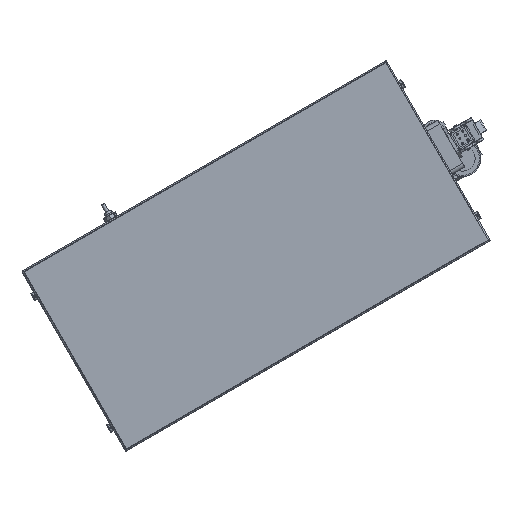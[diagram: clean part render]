
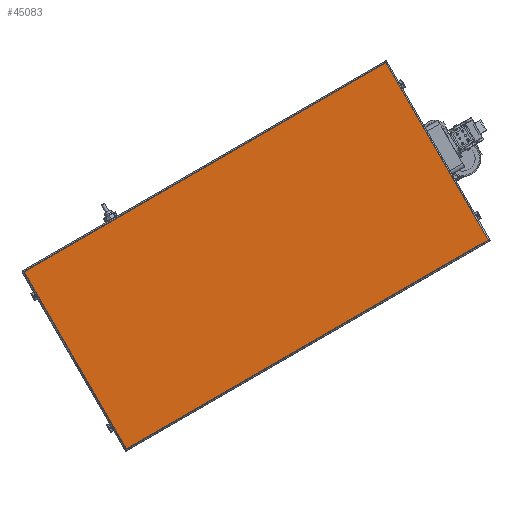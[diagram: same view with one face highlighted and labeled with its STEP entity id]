
A CAD part, top view. The second image highlights one B-rep face of the part: STEP entity #45083.
In plain terms, the highlighted planar face has unit normal (0, 0, 1).
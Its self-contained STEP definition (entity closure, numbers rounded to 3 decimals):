
#1679 = CARTESIAN_POINT ( 'NONE',  ( -165.631, 44.381, 966.5 ) ) ;
#2263 = VECTOR ( 'NONE', #46170, 1000. ) ;
#3627 = VERTEX_POINT ( 'NONE', #25699 ) ;
#4707 = FACE_OUTER_BOUND ( 'NONE', #20780, .T. ) ;
#7316 = EDGE_CURVE ( 'NONE', #3627, #53828, #54344, .T. ) ;
#8416 = EDGE_CURVE ( 'NONE', #47987, #3627, #47534, .T. ) ;
#8774 = VECTOR ( 'NONE', #25216, 1000. ) ;
#10395 = ORIENTED_EDGE ( 'NONE', *, *, #49332, .T. ) ;
#11726 = EDGE_CURVE ( 'NONE', #53828, #46334, #13699, .T. ) ;
#11943 = VECTOR ( 'NONE', #16096, 1000. ) ;
#13699 = LINE ( 'NONE', #28876, #2263 ) ;
#16096 = DIRECTION ( 'NONE',  ( 0.866, 0.5, 0. ) ) ;
#16793 = CARTESIAN_POINT ( 'NONE',  ( 263.668, 292.814, 966.5 ) ) ;
#19885 = DIRECTION ( 'NONE',  ( 0.5, -0.866, 0. ) ) ;
#20428 = CARTESIAN_POINT ( 'NONE',  ( 263.485, 292.131, 966.5 ) ) ;
#20780 = EDGE_LOOP ( 'NONE', ( #10395, #31930, #24896, #28608 ) ) ;
#21284 = DIRECTION ( 'NONE',  ( -0.5, 0.866, 0. ) ) ;
#24673 = CARTESIAN_POINT ( 'NONE',  ( 386.467, 83.119, 966.5 ) ) ;
#24896 = ORIENTED_EDGE ( 'NONE', *, *, #7316, .T. ) ;
#25216 = DIRECTION ( 'NONE',  ( -0.5, 0.866, 0. ) ) ;
#25699 = CARTESIAN_POINT ( 'NONE',  ( 384.735, 82.119, 966.5 ) ) ;
#28608 = ORIENTED_EDGE ( 'NONE', *, *, #11726, .T. ) ;
#28876 = CARTESIAN_POINT ( 'NONE',  ( -167.363, 43.381, 966.5 ) ) ;
#29057 = LINE ( 'NONE', #41236, #50549 ) ;
#31930 = ORIENTED_EDGE ( 'NONE', *, *, #8416, .T. ) ;
#33833 = CARTESIAN_POINT ( 'NONE',  ( 262.485, 293.863, 966.5 ) ) ;
#33973 = CARTESIAN_POINT ( 'NONE',  ( -44.381, -165.631, 966.5 ) ) ;
#41236 = CARTESIAN_POINT ( 'NONE',  ( -43.381, -167.363, 966.5 ) ) ;
#42617 = PLANE ( 'NONE',  #51351 ) ;
#45083 = ADVANCED_FACE ( 'NONE', ( #4707 ), #42617, .T. ) ;
#46170 = DIRECTION ( 'NONE',  ( -0.866, -0.5, 0. ) ) ;
#46334 = VERTEX_POINT ( 'NONE', #1679 ) ;
#46946 = DIRECTION ( 'NONE',  ( 0., 0., 1. ) ) ;
#47534 = LINE ( 'NONE', #24673, #11943 ) ;
#47987 = VERTEX_POINT ( 'NONE', #33973 ) ;
#49332 = EDGE_CURVE ( 'NONE', #46334, #47987, #29057, .T. ) ;
#50549 = VECTOR ( 'NONE', #19885, 1000. ) ;
#51351 = AXIS2_PLACEMENT_3D ( 'NONE', #16793, #46946, #21284 ) ;
#53828 = VERTEX_POINT ( 'NONE', #20428 ) ;
#54344 = LINE ( 'NONE', #33833, #8774 ) ;
